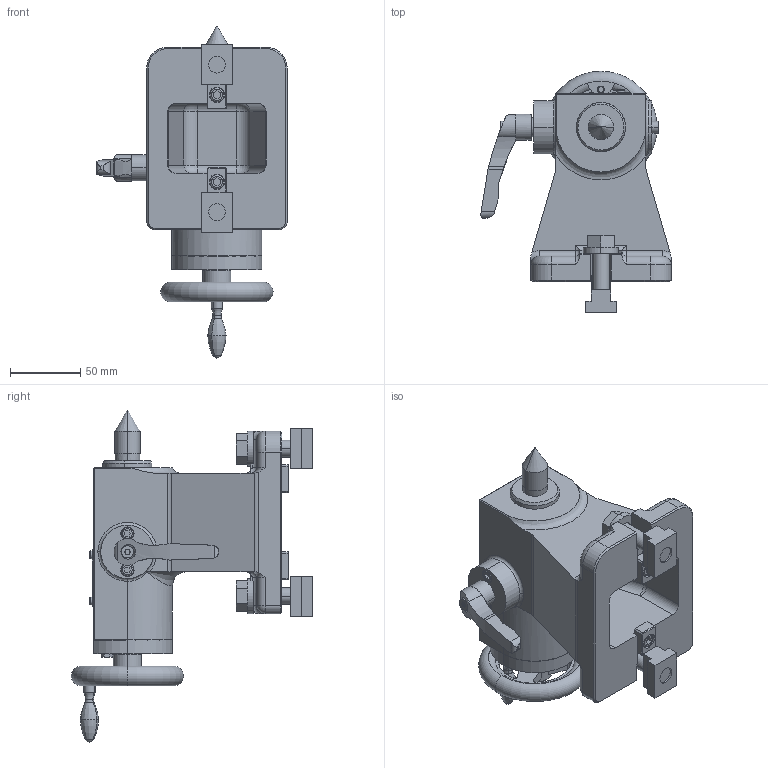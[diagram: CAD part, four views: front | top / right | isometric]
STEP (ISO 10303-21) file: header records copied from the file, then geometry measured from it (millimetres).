
FILE_DESCRIPTION (( 'STEP AP214' ), '1' );
FILE_NAME ('【掲載用】RS100RN.STEP', '2022-01-19T02:32:59', ( '' ), ( '' ), 'SwSTEP 2.0', 'SolidWorks 2020', '' );
FILE_SCHEMA (( 'AUTOMOTIVE_DESIGN' ));
Length unit declared in the file: millimetre
Products named in the file (15): ブラケット(61E4407131)RS100LS; 客先提出用ロゴ; センタソケット(61E376200)RS100LS; ガイドブロック(61M4198752); クランププレート(61E4407141)AN用; fkr8x15-sv; SM-5; CLAMPING PARTS(61E434366)結合; ハンドル PAD; 【掲載用】RS100RN; ボデー(61E2493780)RS100LAN; F-80-1; センタ(61E4406941)MR160RN; RS100RNホンタイ; カバー(61E440717)MR160RN
Assembly tree (16 placements, depth 3):
  【掲載用】RS100RN
    RS100RNホンタイ
      ボデー(61E2493780)RS100LAN
      センタソケット(61E376200)RS100LS
      センタ(61E4406941)MR160RN
      カバー(61E440717)MR160RN
      クランププレート(61E4407141)AN用
      客先提出用ロゴ
      ガイドブロック(61M4198752)  x2
      fkr8x15-sv
    CLAMPING PARTS(61E434366)結合  x2
    ブラケット(61E4407131)RS100LS
    ハンドル PAD
      F-80-1
      SM-5
Bounding box: 135.5 x 172 x 236.4 mm (x, y, z)
Volume: 883537.1 mm3; surface area: 185251.7 mm2
Topology: 16 solids, 16 shells, 1912 faces, 5247 edges, 3423 vertices
Faces by surface type: plane 1529, cylinder 252, cone 71, torus 45, bspline 13, sphere 2
Entity records: 62712 total; most frequent: CARTESIAN_POINT 13264, ORIENTED_EDGE 10166, DIRECTION 9253, EDGE_CURVE 5083, LINE 4407, VECTOR 4407, VERTEX_POINT 3325, AXIS2_PLACEMENT_3D 2423
